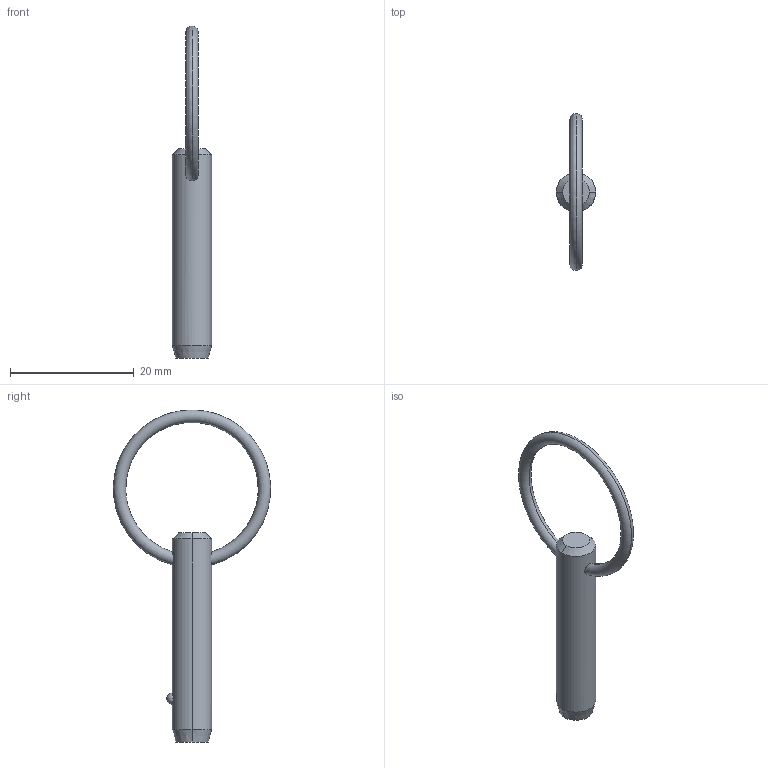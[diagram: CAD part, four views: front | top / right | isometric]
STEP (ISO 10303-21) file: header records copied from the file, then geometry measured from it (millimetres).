
FILE_DESCRIPTION (( 'STEP AP203' ), '1' );
FILE_NAME ('P1250.025-080.step', '2019-07-29T19:39:15', ( '' ), ( '' ), 'SwSTEP 2.0', 'SolidWorks 2017', '' );
FILE_SCHEMA (( 'CONFIG_CONTROL_DESIGN' ));
Length unit declared in the file: millimetre
Products named in the file (1): P1250.025-080
Bounding box: 6.35 x 25.38 x 53.62 mm (x, y, z)
Volume: 1264.1 mm3; surface area: 1131.7 mm2
Topology: 1 solids, 1 shells, 12 faces, 28 edges, 17 vertices
Faces by surface type: cone 4, torus 2, sphere 2, cylinder 2, plane 2
Entity records: 481 total; most frequent: CARTESIAN_POINT 148, DIRECTION 56, ORIENTED_EDGE 48, AXIS2_PLACEMENT_3D 25, EDGE_CURVE 24, EDGE_LOOP 15, VERTEX_POINT 15, FACE_OUTER_BOUND 12
